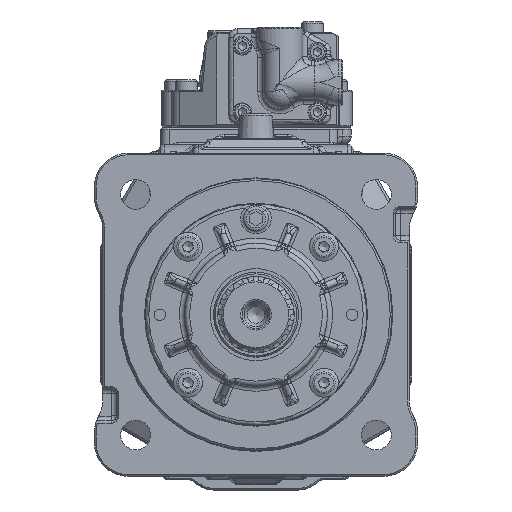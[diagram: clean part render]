
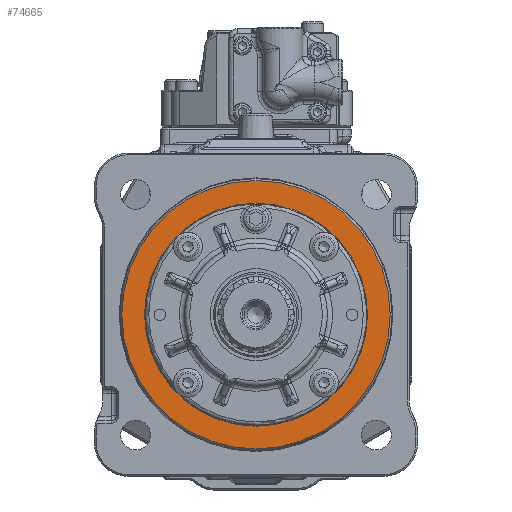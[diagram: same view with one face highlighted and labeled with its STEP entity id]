
A CAD part, front view. The second image highlights one B-rep face of the part: STEP entity #74665.
In plain terms, the highlighted planar face has unit normal (0, -1, 0).
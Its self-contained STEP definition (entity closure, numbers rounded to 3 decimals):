
#3382=FACE_BOUND('',#16316,.T.);
#11757=FACE_OUTER_BOUND('',#16315,.T.);
#16315=EDGE_LOOP('',(#64870));
#16316=EDGE_LOOP('',(#64871));
#19913=CIRCLE('',#81344,65.5);
#19919=CIRCLE('',#81362,78.845);
#36002=VERTEX_POINT('',#149110);
#36015=VERTEX_POINT('',#149151);
#45768=EDGE_CURVE('',#36002,#36002,#19913,.T.);
#45787=EDGE_CURVE('',#36015,#36015,#19919,.T.);
#64870=ORIENTED_EDGE('',*,*,#45787,.F.);
#64871=ORIENTED_EDGE('',*,*,#45768,.F.);
#71033=PLANE('',#81366);
#74665=ADVANCED_FACE('',(#11757,#3382),#71033,.F.);
#81344=AXIS2_PLACEMENT_3D('',#149112,#98556,#98557);
#81362=AXIS2_PLACEMENT_3D('',#149153,#98602,#98603);
#81366=AXIS2_PLACEMENT_3D('',#149160,#98611,#98612);
#98556=DIRECTION('center_axis',(0.,-1.,0.));
#98557=DIRECTION('ref_axis',(0.,0.,1.));
#98602=DIRECTION('center_axis',(0.,1.,0.));
#98603=DIRECTION('ref_axis',(0.,0.,-1.));
#98611=DIRECTION('center_axis',(0.,1.,0.));
#98612=DIRECTION('ref_axis',(0.,0.,1.));
#149110=CARTESIAN_POINT('',(-231.308,-195.93,-72.996));
#149112=CARTESIAN_POINT('Origin',(-231.308,-195.93,-7.496));
#149151=CARTESIAN_POINT('',(-231.308,-195.93,71.349));
#149153=CARTESIAN_POINT('Origin',(-231.308,-195.93,-7.496));
#149160=CARTESIAN_POINT('Origin',(-231.308,-195.93,65.254));
